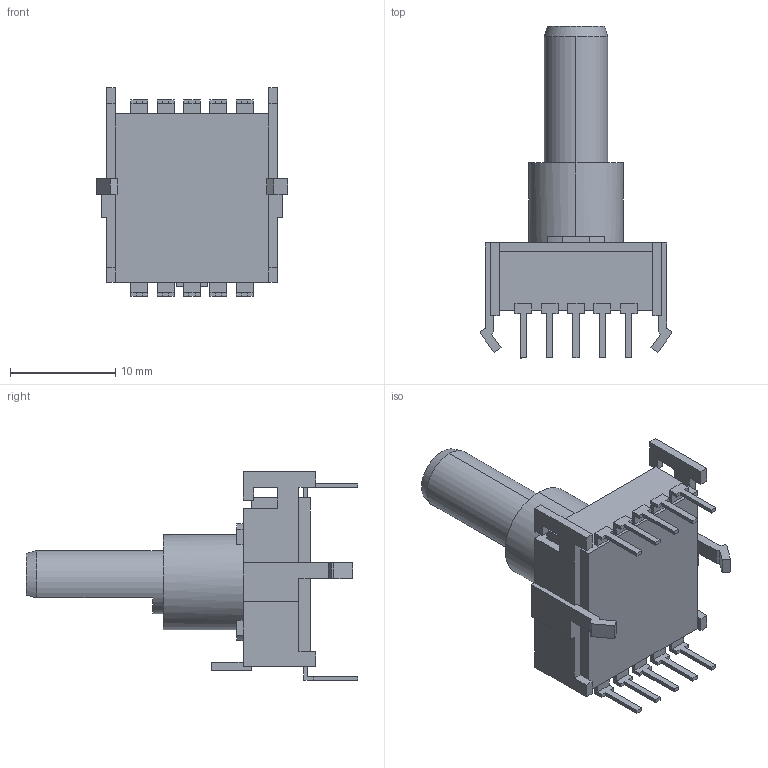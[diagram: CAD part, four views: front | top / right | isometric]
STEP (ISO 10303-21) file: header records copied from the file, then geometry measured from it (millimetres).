
FILE_DESCRIPTION (( 'STEP AP214' ), '1' );
FILE_NAME ('SRBV131502.STEP', '2014-03-13T03:46:36', ( 'user' ), ( 'Hewlett-Packard Company' ), 'SwSTEP 2.0', 'SolidWorks 2012', '' );
FILE_SCHEMA (( 'AUTOMOTIVE_DESIGN' ));
Length unit declared in the file: millimetre
Products named in the file (1): SRBV131502
Bounding box: 18.2 x 31.5 x 19.82 mm (x, y, z)
Volume: 2485.9 mm3; surface area: 1709.5 mm2
Topology: 1 solids, 1 shells, 211 faces, 589 edges, 388 vertices
Faces by surface type: plane 195, cylinder 15, cone 1
Entity records: 9013 total; most frequent: CARTESIAN_POINT 1195, ORIENTED_EDGE 1178, DIRECTION 1048, EDGE_CURVE 589, LINE 550, VECTOR 550, VERTEX_POINT 388, AXIS2_PLACEMENT_3D 249
